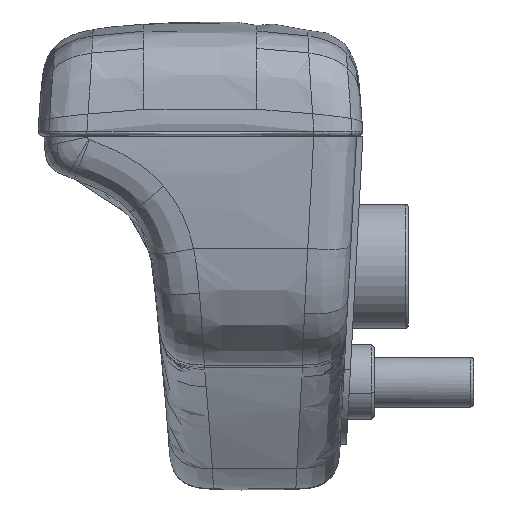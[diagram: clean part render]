
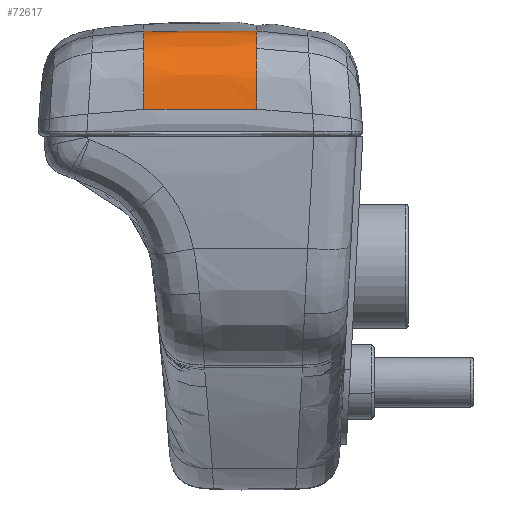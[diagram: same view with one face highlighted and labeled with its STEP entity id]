
A CAD part, left-side view. The second image highlights one B-rep face of the part: STEP entity #72617.
In plain terms, the highlighted free-form (B-spline) face has degree [3, 3] with [4, 7] control points.
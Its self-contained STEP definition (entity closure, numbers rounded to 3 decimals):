
#71573=CARTESIAN_POINT('Vertex',(720.368,-312.987,633.181)) ;
#71577=CARTESIAN_POINT('Control Point',(720.368,-312.987,633.181)) ;
#71578=CARTESIAN_POINT('Control Point',(720.279,-308.453,633.425)) ;
#71579=CARTESIAN_POINT('Control Point',(720.249,-303.897,633.499)) ;
#71580=CARTESIAN_POINT('Control Point',(720.279,-299.341,633.416)) ;
#71581=CARTESIAN_POINT('Control Point',(720.367,-294.808,633.164)) ;
#71582=CARTESIAN_POINT('Vertex',(720.367,-294.808,633.164)) ;
#72400=CARTESIAN_POINT('Vertex',(723.798,-313.01,642.96)) ;
#72404=CARTESIAN_POINT('Control Point',(723.798,-313.01,642.96)) ;
#72405=CARTESIAN_POINT('Control Point',(722.564,-313.007,641.791)) ;
#72406=CARTESIAN_POINT('Control Point',(720.853,-312.994,638.698)) ;
#72407=CARTESIAN_POINT('Control Point',(720.501,-312.987,634.973)) ;
#72408=CARTESIAN_POINT('Control Point',(720.368,-312.987,633.181)) ;
#72521=CARTESIAN_POINT('Control Point',(733.731,-313.114,645.761)) ;
#72522=CARTESIAN_POINT('Control Point',(731.943,-313.115,645.735)) ;
#72523=CARTESIAN_POINT('Control Point',(728.218,-313.123,645.658)) ;
#72524=CARTESIAN_POINT('Control Point',(723.435,-313.201,643.342)) ;
#72525=CARTESIAN_POINT('Control Point',(720.853,-313.328,638.673)) ;
#72526=CARTESIAN_POINT('Control Point',(720.512,-313.431,634.951)) ;
#72527=CARTESIAN_POINT('Control Point',(720.378,-313.477,633.154)) ;
#72528=CARTESIAN_POINT('Control Point',(733.62,-306.976,646.074)) ;
#72529=CARTESIAN_POINT('Control Point',(731.832,-306.976,646.048)) ;
#72530=CARTESIAN_POINT('Control Point',(728.107,-306.979,645.972)) ;
#72531=CARTESIAN_POINT('Control Point',(723.319,-307.006,643.665)) ;
#72532=CARTESIAN_POINT('Control Point',(720.73,-307.049,639.012)) ;
#72533=CARTESIAN_POINT('Control Point',(720.383,-307.083,635.305)) ;
#72534=CARTESIAN_POINT('Control Point',(720.246,-307.098,633.516)) ;
#72535=CARTESIAN_POINT('Control Point',(733.62,-300.817,646.069)) ;
#72536=CARTESIAN_POINT('Control Point',(731.831,-300.816,646.043)) ;
#72537=CARTESIAN_POINT('Control Point',(728.106,-300.814,645.967)) ;
#72538=CARTESIAN_POINT('Control Point',(723.319,-300.787,643.659)) ;
#72539=CARTESIAN_POINT('Control Point',(720.729,-300.746,639.006)) ;
#72540=CARTESIAN_POINT('Control Point',(720.383,-300.713,635.299)) ;
#72541=CARTESIAN_POINT('Control Point',(720.246,-300.698,633.51)) ;
#72542=CARTESIAN_POINT('Control Point',(733.73,-294.679,645.745)) ;
#72543=CARTESIAN_POINT('Control Point',(731.942,-294.678,645.719)) ;
#72544=CARTESIAN_POINT('Control Point',(728.217,-294.67,645.642)) ;
#72545=CARTESIAN_POINT('Control Point',(723.434,-294.593,643.326)) ;
#72546=CARTESIAN_POINT('Control Point',(720.852,-294.468,638.656)) ;
#72547=CARTESIAN_POINT('Control Point',(720.511,-294.366,634.933)) ;
#72548=CARTESIAN_POINT('Control Point',(720.377,-294.32,633.136)) ;
#72550=CARTESIAN_POINT('Control Point',(723.797,-294.783,642.944)) ;
#72551=CARTESIAN_POINT('Control Point',(724.439,-294.781,643.552)) ;
#72552=CARTESIAN_POINT('Control Point',(725.163,-294.78,644.069)) ;
#72553=CARTESIAN_POINT('Control Point',(725.959,-294.78,644.502)) ;
#72554=CARTESIAN_POINT('Control Point',(727.142,-294.781,644.984)) ;
#72555=CARTESIAN_POINT('Control Point',(728.395,-294.782,645.301)) ;
#72556=CARTESIAN_POINT('Control Point',(728.765,-294.782,645.38)) ;
#72557=CARTESIAN_POINT('Control Point',(729.522,-294.783,645.513)) ;
#72558=CARTESIAN_POINT('Control Point',(730.293,-294.784,645.602)) ;
#72559=CARTESIAN_POINT('Control Point',(730.677,-294.785,645.637)) ;
#72560=CARTESIAN_POINT('Control Point',(731.514,-294.786,645.696)) ;
#72561=CARTESIAN_POINT('Control Point',(732.353,-294.787,645.726)) ;
#72562=CARTESIAN_POINT('Control Point',(732.814,-294.788,645.737)) ;
#72563=CARTESIAN_POINT('Control Point',(733.273,-294.788,645.744)) ;
#72564=CARTESIAN_POINT('Control Point',(733.728,-294.788,645.751)) ;
#72565=CARTESIAN_POINT('Vertex',(723.797,-294.783,642.944)) ;
#72567=CARTESIAN_POINT('Vertex',(733.728,-294.788,645.751)) ;
#72571=CARTESIAN_POINT('Control Point',(720.367,-294.808,633.164)) ;
#72572=CARTESIAN_POINT('Control Point',(720.446,-294.808,634.216)) ;
#72573=CARTESIAN_POINT('Control Point',(720.536,-294.807,635.286)) ;
#72574=CARTESIAN_POINT('Control Point',(720.665,-294.805,636.354)) ;
#72575=CARTESIAN_POINT('Control Point',(721.015,-294.8,638.215)) ;
#72576=CARTESIAN_POINT('Control Point',(721.671,-294.794,639.941)) ;
#72577=CARTESIAN_POINT('Control Point',(722.014,-294.791,640.649)) ;
#72578=CARTESIAN_POINT('Control Point',(722.567,-294.788,641.558)) ;
#72579=CARTESIAN_POINT('Control Point',(723.233,-294.785,642.364)) ;
#72580=CARTESIAN_POINT('Control Point',(723.413,-294.784,642.566)) ;
#72581=CARTESIAN_POINT('Control Point',(723.601,-294.784,642.759)) ;
#72582=CARTESIAN_POINT('Control Point',(723.797,-294.783,642.944)) ;
#72585=CARTESIAN_POINT('Control Point',(733.729,-313.005,645.766)) ;
#72586=CARTESIAN_POINT('Control Point',(732.729,-313.005,645.752)) ;
#72587=CARTESIAN_POINT('Control Point',(731.71,-313.007,645.734)) ;
#72588=CARTESIAN_POINT('Control Point',(730.688,-313.008,645.684)) ;
#72589=CARTESIAN_POINT('Control Point',(729.423,-313.01,645.546)) ;
#72590=CARTESIAN_POINT('Control Point',(728.208,-313.011,645.268)) ;
#72591=CARTESIAN_POINT('Control Point',(727.971,-313.011,645.206)) ;
#72592=CARTESIAN_POINT('Control Point',(727.51,-313.012,645.075)) ;
#72593=CARTESIAN_POINT('Control Point',(727.06,-313.012,644.921)) ;
#72594=CARTESIAN_POINT('Control Point',(726.833,-313.012,644.837)) ;
#72595=CARTESIAN_POINT('Control Point',(726.017,-313.013,644.507)) ;
#72596=CARTESIAN_POINT('Control Point',(725.249,-313.013,644.096)) ;
#72597=CARTESIAN_POINT('Control Point',(724.728,-313.012,643.759)) ;
#72598=CARTESIAN_POINT('Control Point',(724.243,-313.012,643.381)) ;
#72599=CARTESIAN_POINT('Control Point',(723.798,-313.01,642.96)) ;
#72600=CARTESIAN_POINT('Vertex',(733.729,-313.005,645.766)) ;
#72604=CARTESIAN_POINT('Control Point',(733.729,-313.005,645.766)) ;
#72605=CARTESIAN_POINT('Control Point',(733.621,-306.939,646.072)) ;
#72606=CARTESIAN_POINT('Control Point',(733.62,-300.853,646.067)) ;
#72607=CARTESIAN_POINT('Control Point',(733.728,-294.788,645.751)) ;
#72610=ORIENTED_EDGE('',*,*,#72569,.F.) ;
#72611=ORIENTED_EDGE('',*,*,#72583,.F.) ;
#72612=ORIENTED_EDGE('',*,*,#71584,.F.) ;
#72613=ORIENTED_EDGE('',*,*,#72409,.F.) ;
#72614=ORIENTED_EDGE('',*,*,#72602,.F.) ;
#72615=ORIENTED_EDGE('',*,*,#72608,.T.) ;
#72617=ADVANCED_FACE('\X2\81EA7ED376AE\X0\',(#72616),#72520,.T.) ;
#71576=B_SPLINE_CURVE_WITH_KNOTS('',4,(#71577,#71578,#71579,#71580,#71581),.UNSPECIFIED.,.F.,.U.,(5,5),(0.,25.739),.UNSPECIFIED.) ;
#72403=B_SPLINE_CURVE_WITH_KNOTS('',3,(#72404,#72405,#72406,#72407,#72408),.UNSPECIFIED.,.F.,.U.,(4,1,4),(10.677,16.03,21.384),.UNSPECIFIED.) ;
#72549=B_SPLINE_CURVE_WITH_KNOTS('',5,(#72550,#72551,#72552,#72553,#72554,#72555,#72556,#72557,#72558,#72559,#72560,#72561,#72562,#72563,#72564),.UNSPECIFIED.,.F.,.U.,(6,3,3,3,6),(0.,6.557,9.167,11.776,14.971),.UNSPECIFIED.) ;
#72570=B_SPLINE_CURVE_WITH_KNOTS('',5,(#72571,#72572,#72573,#72574,#72575,#72576,#72577,#72578,#72579,#72580,#72581,#72582),.UNSPECIFIED.,.F.,.U.,(6,3,3,6),(0.,7.373,13.109,15.111),.UNSPECIFIED.) ;
#72584=B_SPLINE_CURVE_WITH_KNOTS('',5,(#72585,#72586,#72587,#72588,#72589,#72590,#72591,#72592,#72593,#72594,#72595,#72596,#72597,#72598,#72599),.UNSPECIFIED.,.F.,.U.,(6,3,3,3,6),(0.,7.029,8.822,10.615,15.161),.UNSPECIFIED.) ;
#72603=B_SPLINE_CURVE_WITH_KNOTS('',3,(#72604,#72605,#72606,#72607),.UNSPECIFIED.,.F.,.U.,(4,4),(0.112,18.625),.UNSPECIFIED.) ;
#72520=B_SPLINE_SURFACE_WITH_KNOTS('',3,3,((#72521,#72522,#72523,#72524,#72525,#72526,#72527),(#72528,#72529,#72530,#72531,#72532,#72533,#72534),(#72535,#72536,#72537,#72538,#72539,#72540,#72541),(#72542,#72543,#72544,#72545,#72546,#72547,#72548)),.UNSPECIFIED.,.F.,.F.,.U.,(4,4),(4,1,1,1,4),(0.,18.737),(0.,5.341,10.681,16.022,21.363),.UNSPECIFIED.) ;
#71584=EDGE_CURVE('',#71574,#71583,#71576,.T.) ;
#72409=EDGE_CURVE('',#72401,#71574,#72403,.T.) ;
#72569=EDGE_CURVE('',#72566,#72568,#72549,.T.) ;
#72583=EDGE_CURVE('',#71583,#72566,#72570,.T.) ;
#72602=EDGE_CURVE('',#72601,#72401,#72584,.T.) ;
#72608=EDGE_CURVE('',#72601,#72568,#72603,.T.) ;
#72609=EDGE_LOOP('',(#72610,#72611,#72612,#72613,#72614,#72615)) ;
#72616=FACE_OUTER_BOUND('',#72609,.T.) ;
#71574=VERTEX_POINT('',#71573) ;
#71583=VERTEX_POINT('',#71582) ;
#72401=VERTEX_POINT('',#72400) ;
#72566=VERTEX_POINT('',#72565) ;
#72568=VERTEX_POINT('',#72567) ;
#72601=VERTEX_POINT('',#72600) ;
